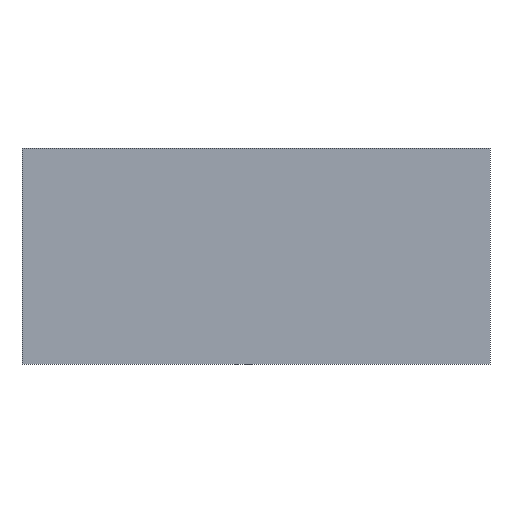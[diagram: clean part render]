
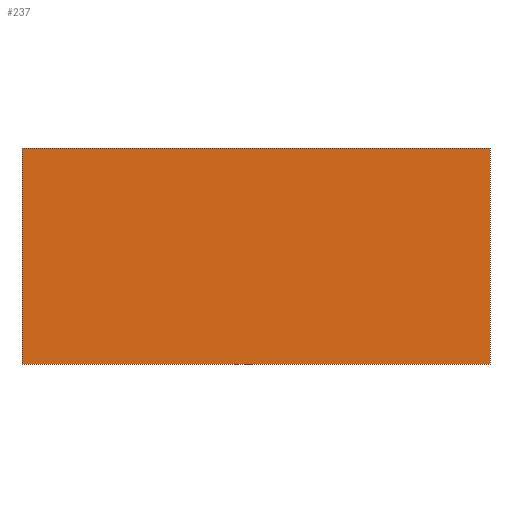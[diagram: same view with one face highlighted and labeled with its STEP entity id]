
A CAD part, front view. The second image highlights one B-rep face of the part: STEP entity #237.
In plain terms, the highlighted planar face has unit normal (0, -1, 0).
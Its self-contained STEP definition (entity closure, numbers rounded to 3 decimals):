
#21 = EDGE_CURVE('',#22,#24,#26,.T.);
#22 = VERTEX_POINT('',#23);
#23 = CARTESIAN_POINT('',(-715.,-970.,1120.));
#24 = VERTEX_POINT('',#25);
#25 = CARTESIAN_POINT('',(-715.,-970.,1180.));
#26 = SURFACE_CURVE('',#27,(#31,#43),.PCURVE_S1.);
#27 = LINE('',#28,#29);
#28 = CARTESIAN_POINT('',(-715.,-970.,1120.));
#29 = VECTOR('',#30,1.);
#30 = DIRECTION('',(0.,0.,1.));
#31 = PCURVE('',#32,#37);
#32 = PLANE('',#33);
#33 = AXIS2_PLACEMENT_3D('',#34,#35,#36);
#34 = CARTESIAN_POINT('',(-715.,-970.,1120.));
#35 = DIRECTION('',(1.,0.,-0.));
#36 = DIRECTION('',(0.,0.,1.));
#37 = DEFINITIONAL_REPRESENTATION('',(#38),#42);
#38 = LINE('',#39,#40);
#39 = CARTESIAN_POINT('',(0.,0.));
#40 = VECTOR('',#41,1.);
#41 = DIRECTION('',(1.,0.));
#42 = ( GEOMETRIC_REPRESENTATION_CONTEXT(2) 
PARAMETRIC_REPRESENTATION_CONTEXT() REPRESENTATION_CONTEXT('2D SPACE',''
  ) );
#43 = PCURVE('',#44,#49);
#44 = PLANE('',#45);
#45 = AXIS2_PLACEMENT_3D('',#46,#47,#48);
#46 = CARTESIAN_POINT('',(-715.,-970.,1120.));
#47 = DIRECTION('',(-0.,1.,0.));
#48 = DIRECTION('',(0.,0.,1.));
#49 = DEFINITIONAL_REPRESENTATION('',(#50),#54);
#50 = LINE('',#51,#52);
#51 = CARTESIAN_POINT('',(0.,0.));
#52 = VECTOR('',#53,1.);
#53 = DIRECTION('',(1.,0.));
#54 = ( GEOMETRIC_REPRESENTATION_CONTEXT(2) 
PARAMETRIC_REPRESENTATION_CONTEXT() REPRESENTATION_CONTEXT('2D SPACE',''
  ) );
#72 = PLANE('',#73);
#73 = AXIS2_PLACEMENT_3D('',#74,#75,#76);
#74 = CARTESIAN_POINT('',(-715.,-970.,1120.));
#75 = DIRECTION('',(0.,0.,1.));
#76 = DIRECTION('',(1.,0.,-0.));
#126 = PLANE('',#127);
#127 = AXIS2_PLACEMENT_3D('',#128,#129,#130);
#128 = CARTESIAN_POINT('',(-715.,-970.,1180.));
#129 = DIRECTION('',(0.,0.,1.));
#130 = DIRECTION('',(1.,0.,-0.));
#141 = EDGE_CURVE('',#142,#144,#146,.T.);
#142 = VERTEX_POINT('',#143);
#143 = CARTESIAN_POINT('',(-585.,-970.,1120.));
#144 = VERTEX_POINT('',#145);
#145 = CARTESIAN_POINT('',(-585.,-970.,1180.));
#146 = SURFACE_CURVE('',#147,(#151,#163),.PCURVE_S1.);
#147 = LINE('',#148,#149);
#148 = CARTESIAN_POINT('',(-585.,-970.,1120.));
#149 = VECTOR('',#150,1.);
#150 = DIRECTION('',(0.,0.,1.));
#151 = PCURVE('',#152,#157);
#152 = PLANE('',#153);
#153 = AXIS2_PLACEMENT_3D('',#154,#155,#156);
#154 = CARTESIAN_POINT('',(-585.,-970.,1120.));
#155 = DIRECTION('',(1.,0.,-0.));
#156 = DIRECTION('',(0.,0.,1.));
#157 = DEFINITIONAL_REPRESENTATION('',(#158),#162);
#158 = LINE('',#159,#160);
#159 = CARTESIAN_POINT('',(0.,0.));
#160 = VECTOR('',#161,1.);
#161 = DIRECTION('',(1.,0.));
#162 = ( GEOMETRIC_REPRESENTATION_CONTEXT(2) 
PARAMETRIC_REPRESENTATION_CONTEXT() REPRESENTATION_CONTEXT('2D SPACE',''
  ) );
#163 = PCURVE('',#44,#164);
#164 = DEFINITIONAL_REPRESENTATION('',(#165),#169);
#165 = LINE('',#166,#167);
#166 = CARTESIAN_POINT('',(0.,130.));
#167 = VECTOR('',#168,1.);
#168 = DIRECTION('',(1.,0.));
#169 = ( GEOMETRIC_REPRESENTATION_CONTEXT(2) 
PARAMETRIC_REPRESENTATION_CONTEXT() REPRESENTATION_CONTEXT('2D SPACE',''
  ) );
#237 = ADVANCED_FACE('',(#238),#44,.F.);
#238 = FACE_BOUND('',#239,.F.);
#239 = EDGE_LOOP('',(#240,#261,#262,#283));
#240 = ORIENTED_EDGE('',*,*,#241,.F.);
#241 = EDGE_CURVE('',#22,#142,#242,.T.);
#242 = SURFACE_CURVE('',#243,(#247,#254),.PCURVE_S1.);
#243 = LINE('',#244,#245);
#244 = CARTESIAN_POINT('',(-715.,-970.,1120.));
#245 = VECTOR('',#246,1.);
#246 = DIRECTION('',(1.,0.,-0.));
#247 = PCURVE('',#44,#248);
#248 = DEFINITIONAL_REPRESENTATION('',(#249),#253);
#249 = LINE('',#250,#251);
#250 = CARTESIAN_POINT('',(0.,0.));
#251 = VECTOR('',#252,1.);
#252 = DIRECTION('',(0.,1.));
#253 = ( GEOMETRIC_REPRESENTATION_CONTEXT(2) 
PARAMETRIC_REPRESENTATION_CONTEXT() REPRESENTATION_CONTEXT('2D SPACE',''
  ) );
#254 = PCURVE('',#72,#255);
#255 = DEFINITIONAL_REPRESENTATION('',(#256),#260);
#256 = LINE('',#257,#258);
#257 = CARTESIAN_POINT('',(0.,0.));
#258 = VECTOR('',#259,1.);
#259 = DIRECTION('',(1.,0.));
#260 = ( GEOMETRIC_REPRESENTATION_CONTEXT(2) 
PARAMETRIC_REPRESENTATION_CONTEXT() REPRESENTATION_CONTEXT('2D SPACE',''
  ) );
#261 = ORIENTED_EDGE('',*,*,#21,.T.);
#262 = ORIENTED_EDGE('',*,*,#263,.T.);
#263 = EDGE_CURVE('',#24,#144,#264,.T.);
#264 = SURFACE_CURVE('',#265,(#269,#276),.PCURVE_S1.);
#265 = LINE('',#266,#267);
#266 = CARTESIAN_POINT('',(-715.,-970.,1180.));
#267 = VECTOR('',#268,1.);
#268 = DIRECTION('',(1.,0.,-0.));
#269 = PCURVE('',#44,#270);
#270 = DEFINITIONAL_REPRESENTATION('',(#271),#275);
#271 = LINE('',#272,#273);
#272 = CARTESIAN_POINT('',(60.,0.));
#273 = VECTOR('',#274,1.);
#274 = DIRECTION('',(0.,1.));
#275 = ( GEOMETRIC_REPRESENTATION_CONTEXT(2) 
PARAMETRIC_REPRESENTATION_CONTEXT() REPRESENTATION_CONTEXT('2D SPACE',''
  ) );
#276 = PCURVE('',#126,#277);
#277 = DEFINITIONAL_REPRESENTATION('',(#278),#282);
#278 = LINE('',#279,#280);
#279 = CARTESIAN_POINT('',(0.,0.));
#280 = VECTOR('',#281,1.);
#281 = DIRECTION('',(1.,0.));
#282 = ( GEOMETRIC_REPRESENTATION_CONTEXT(2) 
PARAMETRIC_REPRESENTATION_CONTEXT() REPRESENTATION_CONTEXT('2D SPACE',''
  ) );
#283 = ORIENTED_EDGE('',*,*,#141,.F.);
